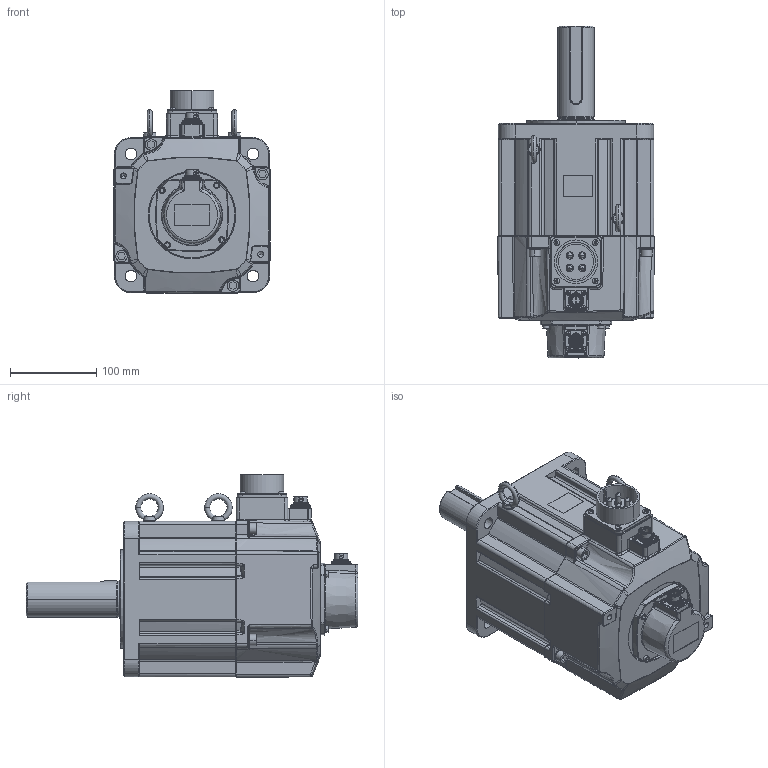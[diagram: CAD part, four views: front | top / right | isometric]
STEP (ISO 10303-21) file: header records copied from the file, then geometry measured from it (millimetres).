
FILE_DESCRIPTION((''),'2;1');
FILE_NAME('ASM0001_ASM','2024-10-18T16:18:31',('TED.FANG'),(''),'CREO PARAMETRIC BY PTC INC, 2020454','CREO PARAMETRIC BY PTC INC, 2020454','');
FILE_SCHEMA(('CONFIG_CONTROL_DESIGN'));
Products named in the file (28): ECM-B3M-F_1855SS__SW0001; LQM37B48FFDB5MH_1; LQM37B48FFDB5MH_2; LQM37B48FFDB5MH_3; LQM37B48FFDB5MH_4; LQM37B48FFDB5MH_5; LQM37B48FFDB5MH_6; LQM37B48FFDB5MH_7; LQM37B48FFDB5MH_8; LQM37B48FFDB5MH_9; LQM37B48FFDB5MH_10; LQM37B48FFDB5MH_11; LQM37B48FFDB5MH_12; LQM37B48FFDB5MH_13; LQM37B48FFDB5MH_14; LQM37B48FFDB5MH_15; LQM37B48FFDB5MH_ASM; SM-10RH-B-RECEPTACLE_ASM; LQM3414E83732KW_1; LQM3414E83732KW_2; LQM3414E83732KW_3; LQM3414E83732KW_4; LQM3414E83732KW_5; LQM3414E83732KW_6; LQM3414E83732KW_7; LQM3414E83732KW_ASM; SM-2RH-B-20240329_ASM; ASM0001_ASM
Assembly tree (27 placements, depth 4):
  ASM0001_ASM
    ECM-B3M-F_1855SS__SW0001
    SM-10RH-B-RECEPTACLE_ASM
      LQM37B48FFDB5MH_ASM
        LQM37B48FFDB5MH_1
        LQM37B48FFDB5MH_2
        LQM37B48FFDB5MH_3
        LQM37B48FFDB5MH_4
        LQM37B48FFDB5MH_5
        LQM37B48FFDB5MH_6
        LQM37B48FFDB5MH_7
        LQM37B48FFDB5MH_8
        LQM37B48FFDB5MH_9
        LQM37B48FFDB5MH_10
        LQM37B48FFDB5MH_11
        LQM37B48FFDB5MH_12
        LQM37B48FFDB5MH_13
        LQM37B48FFDB5MH_14
        LQM37B48FFDB5MH_15
    SM-2RH-B-20240329_ASM
      LQM3414E83732KW_ASM
        LQM3414E83732KW_1
        LQM3414E83732KW_2
        LQM3414E83732KW_3
        LQM3414E83732KW_4
        LQM3414E83732KW_5
        LQM3414E83732KW_6
        LQM3414E83732KW_7
Bounding box: 181.48 x 384.5 x 235.04 mm (x, y, z)
Volume: 6729554.7 mm3; surface area: 295166.5 mm2
Topology: 23 solids, 25 shells, 4952 faces, 13513 edges, 8778 vertices
Faces by surface type: plane 2471, cylinder 1069, cone 489, bspline 472, torus 221, extrusion 138, sphere 92
Entity records: 193128 total; most frequent: CARTESIAN_POINT 70091, ORIENTED_EDGE 26776, DIRECTION 23946, EDGE_CURVE 13425, VERTEX_POINT 8778, AXIS2_PLACEMENT_3D 8146, VECTOR 7654, LINE 7516
